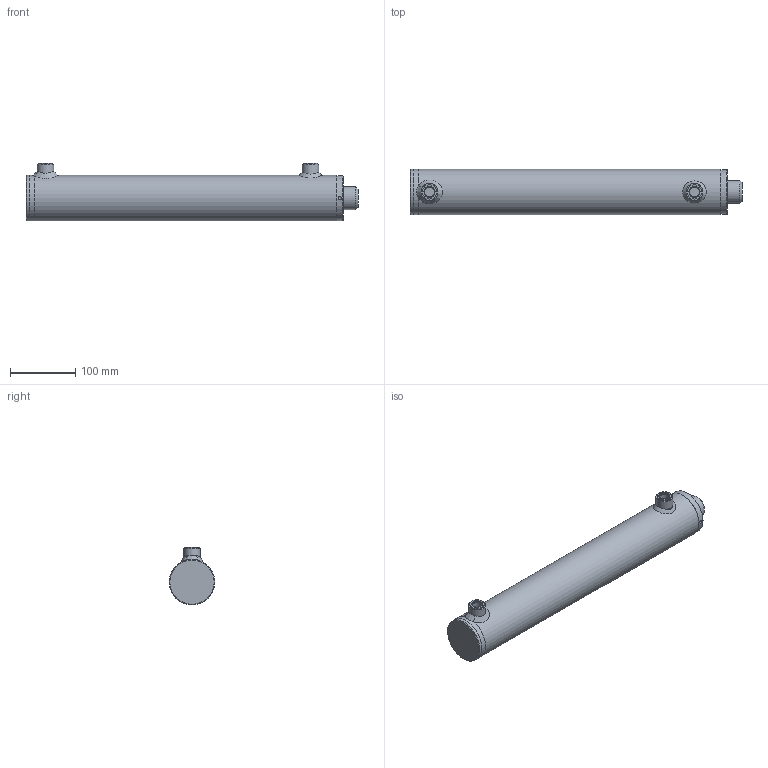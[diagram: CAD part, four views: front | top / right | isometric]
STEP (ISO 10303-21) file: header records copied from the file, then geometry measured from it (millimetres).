
FILE_DESCRIPTION( ( 'Unknown' ), '1' );
FILE_NAME( 'E:/LIBRERIA_3d/CILINDRI/HM0/HM03350350.stp', 'Unknown', ( 'Unknown' ), ( 'Unknown' ), 'PSStep 17.0.49', 'Unknown', ' ' );
FILE_SCHEMA( ( 'AUTOMOTIVE_DESIGN { 1 0 10303 214 1 1 1 1 }' ) );
Length unit declared in the file: millimetre
Products named in the file (18): CT00060020; STL3500350-oa4; Saldatura d'angolo 1-oa2; CBS0600000; FTM3500350-oa3; CG07006035; Assem1; Saldatura con preparazione 1-oa0; Saldatura d'angolo 1-oa1; CF00060070; CDA0002015; APG0600000; SBL3530350
Assembly tree (15 placements, depth 3):
  Saldatura d'angolo 1-oa2
  Saldatura d'angolo 1-oa2
  Assem1
    Saldatura con preparazione 1-oa0
    Saldatura con preparazione 1-oa0
    CF00060070
    CBS0600000
    CDA0002015
    APG0600000  x2
    SBL3530350
    CT00060020
      CT00060020
    STL3500350-oa4
      CBS0600000
      FTM3500350-oa3
    CG07006035
      CG07006035
  Saldatura d'angolo 1-oa1
  Saldatura d'angolo 1-oa1
Bounding box: 510 x 70 x 89 mm (x, y, z)
Volume: 1165742.9 mm3; surface area: 326754.1 mm2
Topology: 16 solids, 16 shells, 201 faces, 407 edges, 251 vertices
Faces by surface type: plane 58, cylinder 55, torus 38, cone 32, bspline 18
Full cylindrical faces by diameter (mm): 4.25 x1, 5 x2, 6 x2, 7 x2, 14.95 x2, 16 x2, 16.6 x2, 19.4 x1, 20 x5, 22 x2, 24.5 x1, 26 x2, 30 x1, 35 x4, 37 x1, 38 x1, 43.6 x1, 44 x1, 45 x1, 55 x1, 55.39 x2, 58.65 x2, 59.9 x1, 60 x1, 60.3 x1, 60.5 x1, 60.6 x1, 61 x1, 62 x3, 62.376 x1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
Entity records: 8646 total; most frequent: CARTESIAN_POINT 3936, DIRECTION 710, ORIENTED_EDGE 432, AXIS2_PLACEMENT_3D 343, EDGE_LOOP 342, FACE_OUTER_BOUND 276, EDGE_CURVE 216, VERTEX_POINT 195
